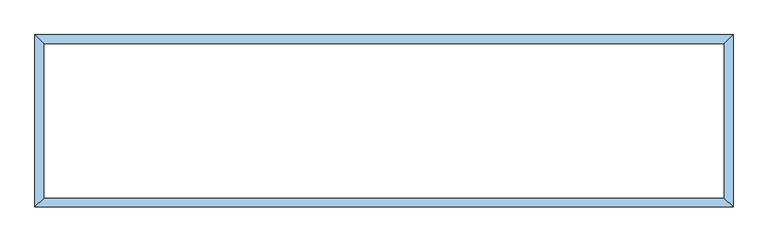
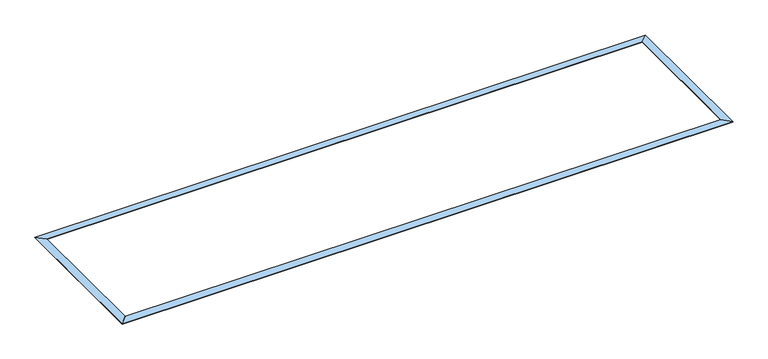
"""IFC4 building model written with IfcOpenShell, lengths in millimetres: window geometry, 散水 : 散水."""

import ifcopenshell
import ifcopenshell.guid

model = None  # the IFC model being written
_history = None  # IfcOwnerHistory: only IFC2X3 demands one
_inside = {}  # id of a spatial element -> (the spatial element, [elements in it])
_under = {}  # id of a project, library or spatial element -> (it, [spatial elements below it])
_declared = {}  # id of a project -> (the project, [libraries it declares])
_typed = {}  # id of a type object -> (the type object, [elements of that type])
_made_of = {}  # id of a material, layer set ... -> (it, [elements and type objects made of it])


def new_model(schema):
    """Start an empty IFC model of exactly this schema.

    Asked for "IFC4X3", IfcOpenShell would pick the latest addendum, in which some entities
    have other attributes; the version numbers below select the first issue.
    IFC2X3 requires an IfcOwnerHistory on every rooted entity: one is made here for all.
    """
    global model, _history
    if schema == "IFC4X3":
        model = ifcopenshell.file(schema_version=(4, 3, 0, 0))
    else:
        model = ifcopenshell.file(schema=schema)
    _inside.clear()
    _under.clear()
    _declared.clear()
    _typed.clear()
    _made_of.clear()
    _history = None
    if model.schema == "IFC2X3":
        org = make("IfcOrganization", Name="unknown")
        user = make(
            "IfcPersonAndOrganization",
            ThePerson=make("IfcPerson", FamilyName="unknown"),
            TheOrganization=org,
        )
        app = make(
            "IfcApplication",
            ApplicationDeveloper=org,
            Version="unknown",
            ApplicationFullName="unknown",
            ApplicationIdentifier="unknown",
        )
        _history = make(
            "IfcOwnerHistory",
            OwningUser=user,
            OwningApplication=app,
            ChangeAction="ADDED",
            CreationDate=0,
        )
    return model


def make(cls, **values):
    """One entity of the class cls with the attributes given. An attribute that is None is left unset."""
    return model.create_entity(
        cls, **{name: value for name, value in values.items() if value is not None}
    )


def rooted(cls, **values):
    """An entity with a GlobalId (a new one), such as an element, a storey or a relation."""
    return make(cls, GlobalId=ifcopenshell.guid.new(), OwnerHistory=_history, **values)


def si_unit(unit_type, name, prefix=None):
    """IfcSIUnit, for example si_unit("LENGTHUNIT", "METRE", prefix="MILLI")."""
    return make("IfcSIUnit", UnitType=unit_type, Prefix=prefix, Name=name)


def assignment(units):
    """IfcUnitAssignment: the units of a project."""
    return None if units is None else make("IfcUnitAssignment", Units=units)


def point(xyz):
    """IfcCartesianPoint."""
    return None if xyz is None else make("IfcCartesianPoint", Coordinates=xyz)


def direction(xyz):
    """IfcDirection."""
    return None if xyz is None else make("IfcDirection", DirectionRatios=xyz)


def frame(location, z_axis=None, x_axis=None):
    """IfcAxis2Placement3D, a coordinate frame: its origin and axes. An axis left out is left unset."""
    return make(
        "IfcAxis2Placement3D",
        Location=point(location),
        Axis=direction(z_axis),
        RefDirection=direction(x_axis),
    )


def origin():
    """The frame at (0, 0, 0) with its axes left unset."""
    return frame((0.0, 0.0, 0.0))


def place(relative_to, where):
    """IfcLocalPlacement: puts the frame where relative to a parent placement (None: the world)."""
    return make(
        "IfcLocalPlacement", PlacementRelTo=relative_to, RelativePlacement=where
    )


def context(
    kind, dimensions, precision=None, world=None, true_north=None, identifier=None
):
    """IfcGeometricRepresentationContext, for example the 3D "Model" context."""
    return make(
        "IfcGeometricRepresentationContext",
        ContextIdentifier=identifier,
        ContextType=kind,
        CoordinateSpaceDimension=dimensions,
        Precision=precision,
        WorldCoordinateSystem=world,
        TrueNorth=true_north,
    )


def project(units=None, contexts=None):
    """IfcProject with its units and contexts."""
    return rooted(
        "IfcProject",
        Name="project",
        RepresentationContexts=contexts,
        UnitsInContext=assignment(units),
    )


def spatial(cls, under=None, at=None, **own):
    """A site, building, storey or space (cls), placed at a placement, below another one or the project."""
    s = rooted(cls, ObjectPlacement=at, **own)
    if under is not None:
        _under.setdefault(under.id(), (under, []))[1].append(s)
    return s


def faces_of(points, faces, orient=None, outer=None):
    """IfcFace entities. A face is a list of loops; a loop is a list of indices into points, from 0.

    orient and outer hold one flag for each loop. By default every Orientation is true, the
    first loop of a face is its IfcFaceOuterBound and the others are IfcFaceBound.
    """
    made = []
    for i, loops in enumerate(faces):
        bounds = []
        for j, loop in enumerate(loops):
            is_outer = j == 0 if outer is None else outer[i][j]
            bounds.append(
                make(
                    "IfcFaceOuterBound" if is_outer else "IfcFaceBound",
                    Bound=make("IfcPolyLoop", Polygon=[points[k] for k in loop]),
                    Orientation=True if orient is None else orient[i][j],
                )
            )
        made.append(make("IfcFace", Bounds=bounds))
    return made


def faceted_brep(points, faces, orient=None, outer=None, voids=None):
    """IfcFacetedBrep: a solid bounded by flat faces; with voids (closed shells), ...WithVoids."""
    shared = [point(p) for p in points]
    hull = make("IfcClosedShell", CfsFaces=faces_of(shared, faces, orient, outer))
    if voids is None:
        return make("IfcFacetedBrep", Outer=hull)
    return make(
        "IfcFacetedBrepWithVoids",
        Outer=hull,
        Voids=[
            make(cls, CfsFaces=faces_of(shared, fs, o, b)) for cls, fs, o, b in voids
        ],
    )


def shape(context_of_items, identifier, shape_type, items):
    """IfcShapeRepresentation: the items that make up one representation, for example the "Body"."""
    return make(
        "IfcShapeRepresentation",
        ContextOfItems=context_of_items,
        RepresentationIdentifier=identifier,
        RepresentationType=shape_type,
        Items=items,
    )


def source(mapping_origin, context_of_items, identifier, shape_type, items):
    """IfcRepresentationMap: a shape defined once, which mapped items show again and again."""
    return make(
        "IfcRepresentationMap",
        MappingOrigin=mapping_origin,
        MappedRepresentation=shape(context_of_items, identifier, shape_type, items),
    )


def transform(
    local_origin,
    x_axis=None,
    y_axis=None,
    z_axis=None,
    scale=None,
    scale2=None,
    scale3=None,
    uniform=True,
):
    """IfcCartesianTransformationOperator3D, or its non-uniform kind. x_axis, y_axis, z_axis: its Axis1, 2, 3."""
    if uniform:
        return make(
            "IfcCartesianTransformationOperator3D",
            Axis1=direction(x_axis),
            Axis2=direction(y_axis),
            LocalOrigin=point(local_origin),
            Scale=scale,
            Axis3=direction(z_axis),
        )
    return make(
        "IfcCartesianTransformationOperator3DnonUniform",
        Axis1=direction(x_axis),
        Axis2=direction(y_axis),
        LocalOrigin=point(local_origin),
        Scale=scale,
        Axis3=direction(z_axis),
        Scale2=scale2,
        Scale3=scale3,
    )


def mapped(mapping_source, mapping_target):
    """IfcMappedItem: shows the shape of a source again, moved by a transform."""
    return make(
        "IfcMappedItem", MappingSource=mapping_source, MappingTarget=mapping_target
    )


def made_of(thing, what):
    """Note that an element or type object is made of a material, layer set ...; save() writes the relation."""
    if what is not None:
        _made_of.setdefault(what.id(), (what, []))[1].append(thing)
    return thing


def element(
    cls,
    number,
    at=None,
    inside=None,
    cuts=None,
    type_object=None,
    material=None,
    context=None,
    identifier="Body",
    shape_type=None,
    held_by="IfcProductDefinitionShape",
    body=None,
    shapes=None,
    **own,
):
    """One element of the class cls, such as IfcWall. Its Tag is "e" and its number.

    at: its placement. inside: the storey or other place that contains it. cuts: it is an
    opening in that element (IfcRelVoidsElement). A single representation is given by context,
    identifier, shape_type and body (its items); several are given by shapes. held_by: the class
    of the entity that holds the representations. save() writes the other relations.
    """
    e = rooted(cls, Tag="e%d" % number, ObjectPlacement=at, **own)
    if body is not None:
        shapes = [shape(context, identifier, shape_type, body)]
    if shapes is not None:
        e.Representation = make(held_by, Representations=shapes)
    if inside is not None:
        _inside.setdefault(inside.id(), (inside, []))[1].append(e)
    if cuts is not None:
        rooted(
            "IfcRelVoidsElement", RelatingBuildingElement=cuts, RelatedOpeningElement=e
        )
    if type_object is not None:
        _typed.setdefault(type_object.id(), (type_object, []))[1].append(e)
    return made_of(e, material)


def aggregate(whole, parts):
    """IfcRelAggregates: a whole, such as a stair, and the parts it consists of."""
    return rooted("IfcRelAggregates", RelatingObject=whole, RelatedObjects=parts)


def save(model, path):
    """Write the relations noted so far, then the file.

    IfcRelAggregates (storeys below a building ...), IfcRelContainedInSpatialStructure (elements
    in a storey), IfcRelDefinesByType, IfcRelAssociatesMaterial and IfcRelDeclares: one each for
    every whole, place, type object, material and project.
    """
    for whole, parts in _under.values():
        aggregate(whole, parts)
    for where, things in _inside.values():
        rooted(
            "IfcRelContainedInSpatialStructure",
            RelatedElements=things,
            RelatingStructure=where,
        )
    for kind, things in _typed.values():
        rooted("IfcRelDefinesByType", RelatedObjects=things, RelatingType=kind)
    for what, things in _made_of.values():
        rooted("IfcRelAssociatesMaterial", RelatedObjects=things, RelatingMaterial=what)
    for by, libraries in _declared.values():
        rooted("IfcRelDeclares", RelatingContext=by, RelatedDefinitions=libraries)
    model.write(path)


def window_03bd2c34(model_context):
    return source(origin(), model_context, "Body", "Brep", [
        faceted_brep([(30022.1385293, 8470.1856454, -350.0), (30022.1385293, 8470.1856454, -400.0), (30022.1385293, -529.8143546, -400.0), (30022.1385293, -529.8143546, -350.0), (30522.1385293, 8970.1856454, -375.0), (30522.1385293, -1029.8143546, -375.0), (30522.1385293, 8970.1856454, -400.0), (30522.1385293, -1029.8143546, -400.0), (-9477.8614707, -529.8143546, -400.0), (-9477.8614707, -529.8143546, -350.0), (-9977.8614707, -1029.8143546, -375.0), (-9977.8614707, -1029.8143546, -400.0), (-9477.8614707, 8470.1856454, -400.0), (-9477.8614707, 8470.1856454, -350.0), (-9977.8614707, 8970.1856454, -375.0), (-9977.8614707, 8970.1856454, -400.0)], [[[0, 1, 2, 3]], [[4, 0, 3, 5]], [[6, 4, 5, 7]], [[3, 2, 8, 9]], [[5, 3, 9, 10]], [[7, 5, 10, 11]], [[9, 8, 12, 13]], [[10, 9, 13, 14]], [[11, 10, 14, 15]], [[7, 11, 15, 6], [1, 12, 8, 2]], [[13, 12, 1, 0]], [[14, 13, 0, 4]], [[15, 14, 4, 6]]]),
    ])


if __name__ == "__main__":
    model = new_model("IFC4")
    model_context = context("Model", 3, world=origin())
    ifc_project = project(units=[si_unit("LENGTHUNIT", "METRE", prefix="MILLI")], contexts=[model_context])
    site = spatial("IfcSite", under=ifc_project)
    building = spatial("IfcBuilding", under=site)
    placement = place(None, origin())
    window_shape = window_03bd2c34(model_context)
    element("IfcWindow", 1, ObjectType="散水 : 散水", at=placement, inside=building, context=model_context, shape_type="MappedRepresentation", body=[
        mapped(window_shape, transform((0.0, 0.0, 0.0), x_axis=(1.0, 0.0, 0.0), y_axis=(0.0, 1.0, 0.0), z_axis=(0.0, 0.0, 1.0))),
    ])
    save(model, "model.ifc")
